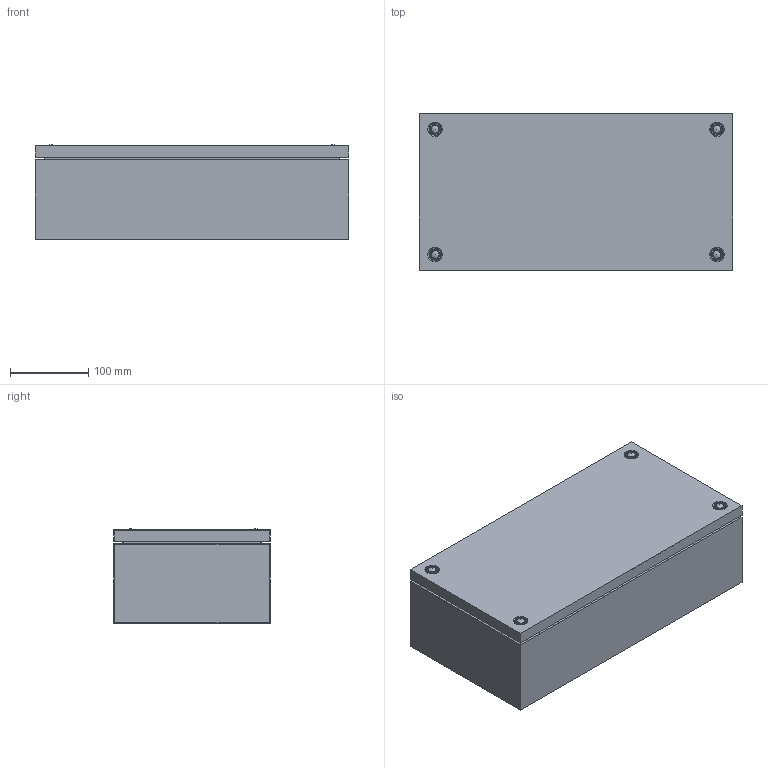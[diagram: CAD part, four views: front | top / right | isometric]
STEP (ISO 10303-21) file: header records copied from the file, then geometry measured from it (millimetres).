
FILE_DESCRIPTION( ( 'STEP AP214' ), '1' );
FILE_NAME( 'p:/temp/worker_258/temp/exporttempdir_4336_211_S4mn6/format_0/SSTB204012(0).stp', '2021-03-16T12:09:57', ( 'License CC BY-ND 4.0' ), ( 'CADENAS' ), ' ', 'PARTsolutions', ' ' );
FILE_SCHEMA( ( 'AUTOMOTIVE_DESIGN { 1 0 10303 214 1 1 1 1 }' ) );
Length unit declared in the file: millimetre
Products named in the file (4): SSTB204012(0); _SSTB204012(0)_01; _SSTB2040XX(0)_02; _SSTBXXXXXX(0)_03
Assembly tree (6 placements, depth 2):
  SSTB204012(0)
    _SSTB204012(0)_01
    _SSTB2040XX(0)_02
    _SSTBXXXXXX(0)_03  x4
Bounding box: 400 x 200 x 121.3 mm (x, y, z)
Volume: 424109.4 mm3; surface area: 672237.3 mm2
Topology: 6 solids, 6 shells, 235 faces, 529 edges, 343 vertices
Faces by surface type: plane 145, cylinder 56, cone 30, sphere 4
Full cylindrical faces by diameter (mm): 4.9 x4, 6 x4, 7 x4, 7.22 x2, 7.5 x4, 8 x6, 9 x2, 10 x4, 16 x2
Entity records: 7026 total; most frequent: DIRECTION 934, CARTESIAN_POINT 933, ORIENTED_EDGE 828, EDGE_CURVE 414, AXIS2_PLACEMENT_3D 325, VERTEX_POINT 292, LINE 284, VECTOR 284
